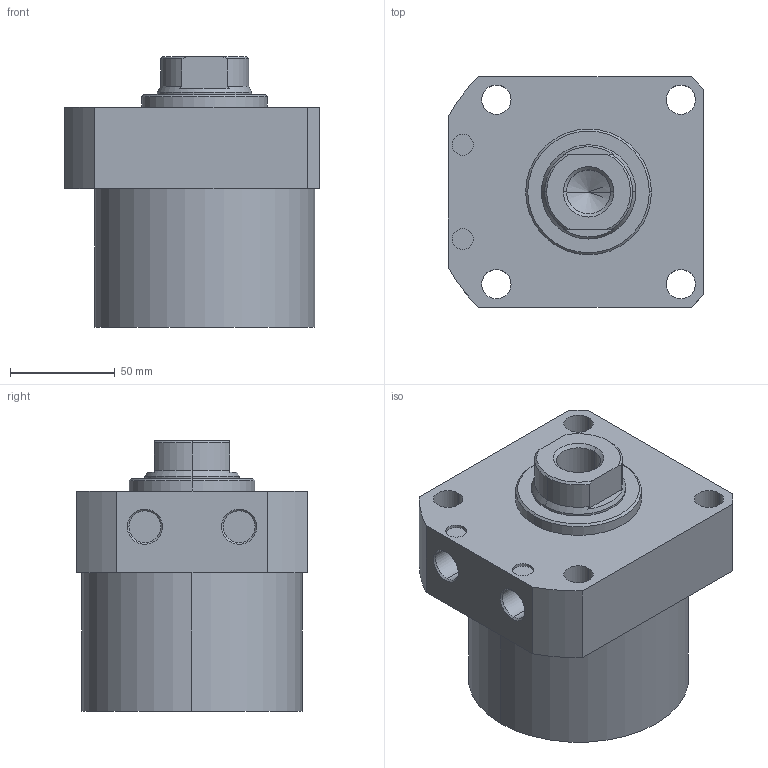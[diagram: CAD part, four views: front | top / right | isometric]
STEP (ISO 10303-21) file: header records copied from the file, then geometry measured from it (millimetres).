
FILE_DESCRIPTION (( 'STEP AP203' ), '1' );
FILE_NAME ('CLLR-105CA-045.STEP', '2019-12-19T01:31:48', ( '' ), ( '' ), 'SwSTEP 2.0', 'SolidWorks 2015', '' );
FILE_SCHEMA (( 'CONFIG_CONTROL_DESIGN' ));
Length unit declared in the file: millimetre
Products named in the file (1): CLLR-105CA-045
Bounding box: 122 x 110 x 129 mm (x, y, z)
Volume: 1074002.6 mm3; surface area: 79548.9 mm2
Topology: 1 solids, 1 shells, 63 faces, 148 edges, 93 vertices
Faces by surface type: cylinder 29, plane 19, cone 15
Entity records: 1909 total; most frequent: DIRECTION 338, CARTESIAN_POINT 327, ORIENTED_EDGE 292, EDGE_CURVE 146, AXIS2_PLACEMENT_3D 136, VERTEX_POINT 93, EDGE_LOOP 79, CIRCLE 72
